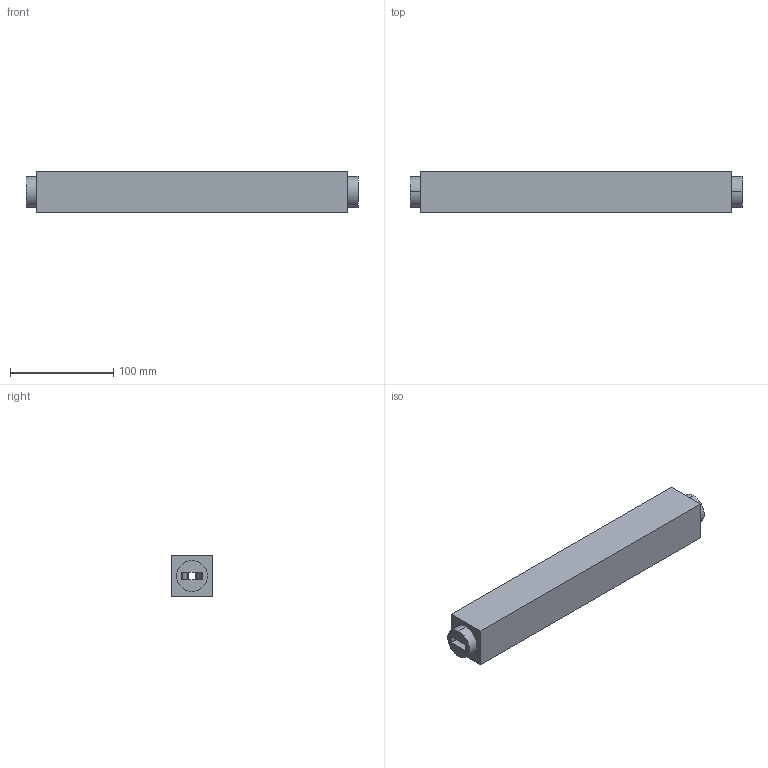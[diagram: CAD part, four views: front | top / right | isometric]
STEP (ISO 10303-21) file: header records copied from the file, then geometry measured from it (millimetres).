
FILE_DESCRIPTION (( 'STEP AP214' ), '1' );
FILE_NAME ('LD_obdelnik.STEP', '2019-07-31T07:56:55', ( '' ), ( '' ), 'SwSTEP 2.0', 'SolidWorks 2016', '' );
FILE_SCHEMA (( 'AUTOMOTIVE_DESIGN' ));
Length unit declared in the file: millimetre
Products named in the file (1): LD_obdelnik
Bounding box: 321 x 40 x 40 mm (x, y, z)
Volume: 455431 mm3; surface area: 69086.7 mm2
Topology: 1 solids, 1 shells, 30 faces, 78 edges, 52 vertices
Faces by surface type: plane 18, cylinder 12
Entity records: 972 total; most frequent: DIRECTION 164, CARTESIAN_POINT 161, ORIENTED_EDGE 156, EDGE_CURVE 78, AXIS2_PLACEMENT_3D 55, VECTOR 54, LINE 54, VERTEX_POINT 52
